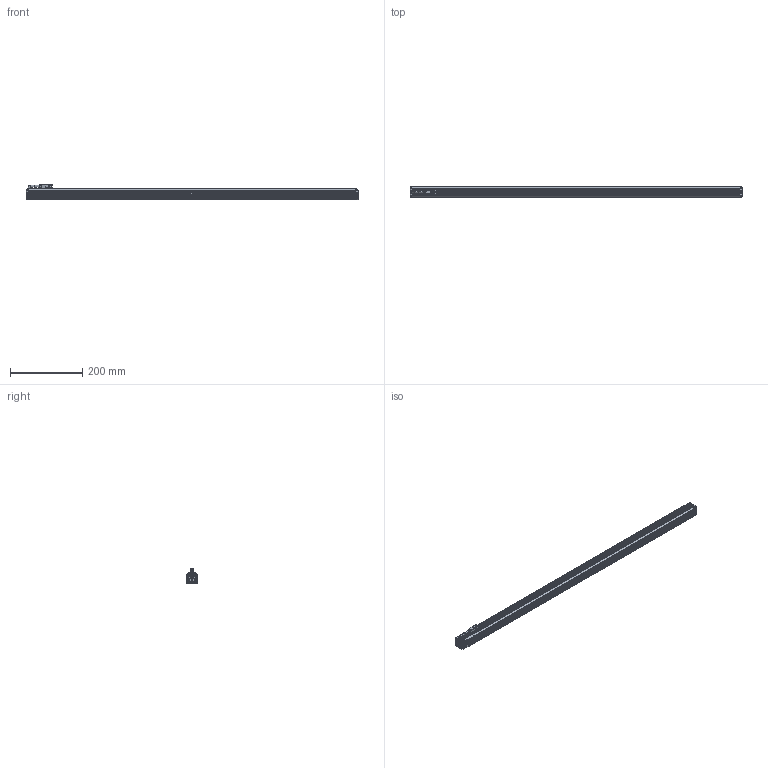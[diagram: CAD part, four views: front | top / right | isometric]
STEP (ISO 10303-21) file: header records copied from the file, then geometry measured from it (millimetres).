
FILE_DESCRIPTION((''),'2;1');
FILE_NAME('MV-LLDS-H-1000-30-W-PL_ASM','2024-04-08T14:36:53',('huguozhe'),(''),'CREO PARAMETRIC BY PTC INC, 2020044','CREO PARAMETRIC BY PTC INC, 2020044','');
FILE_SCHEMA(('AUTOMOTIVE_DESIGN { 1 0 10303 214 1 1 1 1 }'));
Length unit declared in the file: millimetre
Products named in the file (15): DE-15-001231; DE-15-001230_ASM; DE-15-000355; DE-15-000389_ASM; DE-12-002271; TIP-M3X4-4_5X5-SO-ET-07061033; DE-12-002271_ASM; DE-12-001346; SC-KM2X6-BNI-GB819; XIANLAN_HEAD; CABLE_HEAD; CABLE_HEAD_ASM_ASM; 190100852; SC-PM2X6B-JMP; MV-LLDS-H-1000-30-W-PL_ASM
Assembly tree (35 placements, depth 3):
  MV-LLDS-H-1000-30-W-PL_ASM
    DE-15-001230_ASM
      DE-15-001231
    DE-15-000389_ASM
      DE-15-000355
    DE-12-002271_ASM  x2
      DE-12-002271
      TIP-M3X4-4_5X5-SO-ET-07061033
    DE-12-001346
    SC-KM2X6-BNI-GB819  x6
    CABLE_HEAD_ASM_ASM
      XIANLAN_HEAD
      CABLE_HEAD
    190100852  x8
    SC-PM2X6B-JMP  x8
Bounding box: 918 x 30 x 42.65 mm (x, y, z)
Volume: 631655.4 mm3; surface area: 334778.5 mm2
Topology: 33 solids, 73 shells, 2910 faces, 7480 edges, 4701 vertices
Faces by surface type: plane 1404, cylinder 642, bspline 472, cone 329, torus 54, sphere 8, extrusion 1
Entity records: 50221 total; most frequent: CARTESIAN_POINT 11424, ORIENTED_EDGE 6278, DIRECTION 6070, EDGE_CURVE 3175, PRESENTATION_STYLE_ASSIGNMENT 2180, STYLED_ITEM 2180, AXIS2_PLACEMENT_3D 2035, VERTEX_POINT 2034
